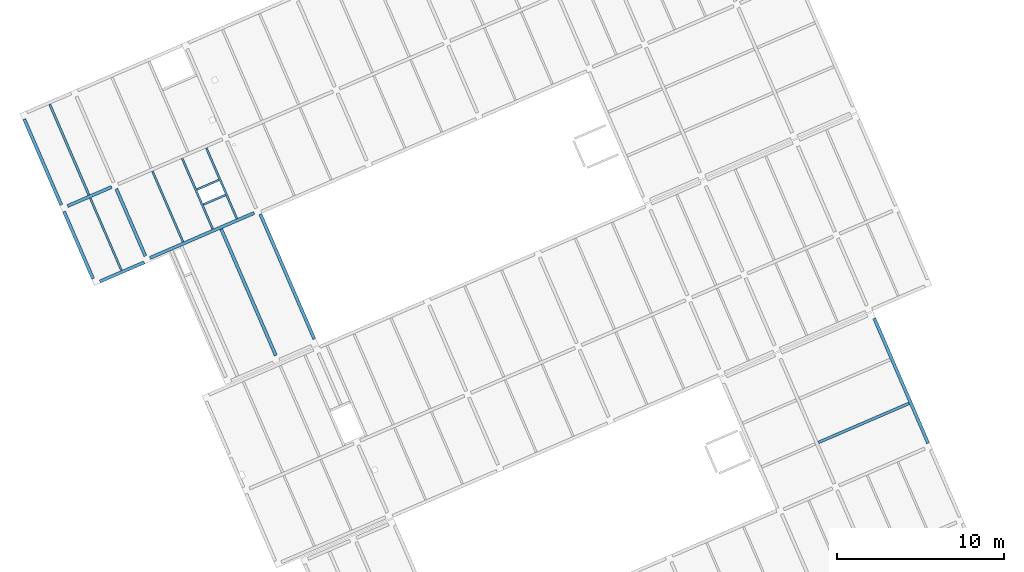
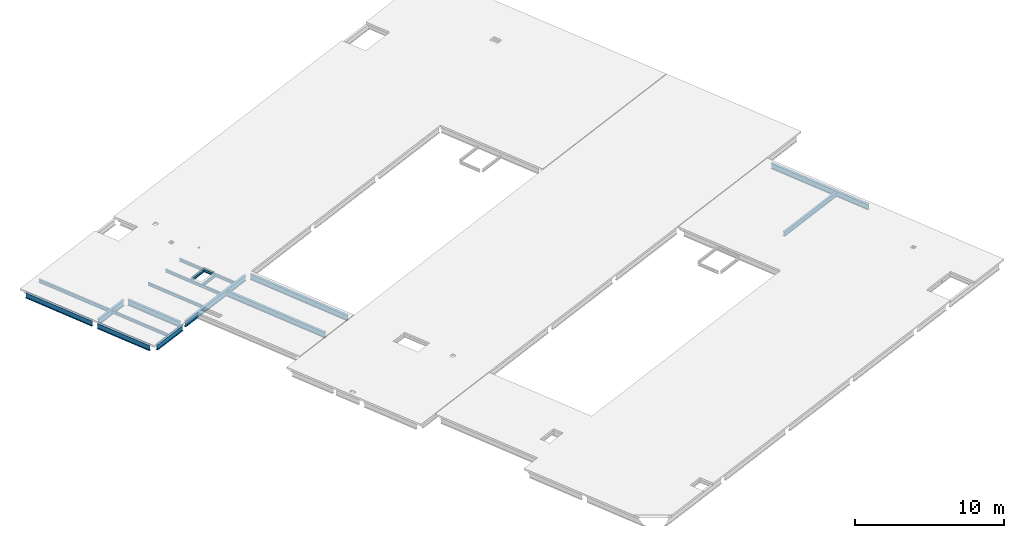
# One storey, part 8 of 15: 17 beams.
"""IFC4 building model written with IfcOpenShell, lengths in metres."""

from ifc_helpers import new_model, entity, si_unit, converted_unit, derived_unit, direction, frame, origin, place, context, subcontext, project, spatial, line, arc, indexed_curve, outline, extrude, source, transform, mapped, material, type_object, type_shapes, element, save


model = new_model("IFC4")

# Units and contexts
model_context = context("Model", 3, precision=1e-05, world=origin(), true_north=direction((6.12323399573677e-17, 1.0)))
body_context = subcontext(model_context, "Body", "Model", "MODEL_VIEW")
ifc_project = project(units=[si_unit("LENGTHUNIT", "METRE"), si_unit("AREAUNIT", "SQUARE_METRE"), si_unit("VOLUMEUNIT", "CUBIC_METRE"), converted_unit("PLANEANGLEUNIT", "DEGREE", entity("IfcPlaneAngleMeasure", 0.0174532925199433), si_unit("PLANEANGLEUNIT", "RADIAN"), dimensions=[0, 0, 0, 0, 0, 0, 0]), si_unit("MASSUNIT", "GRAM", prefix="KILO"), derived_unit("MOMENTOFINERTIAUNIT", [(si_unit("LENGTHUNIT", "METRE"), 4)]), derived_unit("LINEARFORCEUNIT", [(si_unit("MASSUNIT", "GRAM", prefix="KILO"), 1), (si_unit("TIMEUNIT", "SECOND"), -2)]), derived_unit("WARPINGCONSTANTUNIT", [(si_unit("LENGTHUNIT", "METRE"), 6)]), derived_unit("THERMALTRANSMITTANCEUNIT", [(si_unit("MASSUNIT", "GRAM", prefix="KILO"), 1), (si_unit("THERMODYNAMICTEMPERATUREUNIT", "KELVIN"), -1), (si_unit("TIMEUNIT", "SECOND"), -3)]), derived_unit("USERDEFINED", [(si_unit("MASSUNIT", "GRAM", prefix="KILO"), 1), (si_unit("TIMEUNIT", "SECOND"), -2), (si_unit("THERMODYNAMICTEMPERATUREUNIT", "KELVIN"), -1)]), derived_unit("THERMALRESISTANCEUNIT", [(si_unit("MASSUNIT", "GRAM", prefix="KILO"), -1), (si_unit("TIMEUNIT", "SECOND"), 3), (si_unit("THERMODYNAMICTEMPERATUREUNIT", "KELVIN"), 1)])], contexts=[model_context])

# Site, building, storey
site_placement = place(None, origin())
site = spatial("IfcSite", under=ifc_project, at=site_placement, Name="Default", CompositionType="ELEMENT")
building_placement = place(site_placement, frame((12.6613425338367, -82.5732315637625, 317.15), z_axis=(0.0, 0.0, 1.0), x_axis=(-0.396377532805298, 0.918087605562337, 0.0)))
building = spatial("IfcBuilding", under=site, at=building_placement, Name="CESFAM Coyhaique", CompositionType="ELEMENT")
storey_placement = place(building_placement, frame((0.0, 0.0, 8.45000000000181)))
storey = spatial("IfcBuildingStorey", under=building, at=storey_placement, Name="Nivel 3", CompositionType="ELEMENT", Elevation=8.45000000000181)

# Beams
ifc_material = material(Name="Steel, 45-345", Category="Metal")
beam_type_1 = type_object("IfcBeamType", Name="M_W Shapes:W450X190mm", PredefinedType="BEAM", material=ifc_material)
shared_shape_1 = source(origin(), body_context, "Body", "SweptSolid", [
    extrude(outline(indexed_curve([(-0.224999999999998, -0.0950000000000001), (-0.215349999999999, -0.0950000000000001), (-0.215349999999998, -0.0105700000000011), (-0.213109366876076, -0.00516063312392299), (-0.207699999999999, -0.0029200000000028), (0.207700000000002, -0.0029200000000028), (0.21310936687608, -0.00516063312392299), (0.215350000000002, -0.0105700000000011), (0.215350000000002, -0.0950000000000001), (0.225000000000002, -0.0950000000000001), (0.225000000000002, 0.0950000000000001), (0.215350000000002, 0.0950000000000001), (0.215350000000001, 0.0105699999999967), (0.21310936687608, 0.00516063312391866), (0.207700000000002, 0.00291999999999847), (-0.207699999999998, 0.00291999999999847), (-0.213109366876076, 0.00516063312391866), (-0.215349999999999, 0.0105700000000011), (-0.215349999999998, 0.0950000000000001), (-0.224999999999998, 0.0950000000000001)], segments=[line(1, 2, 3), arc(3, 4, 5), line(5, 6), arc(6, 7, 8), line(8, 9, 10, 11, 12, 13), arc(13, 14, 15), line(15, 16), arc(16, 17, 18), line(18, 19, 20, 1)], self_intersect=False)), frame((15.1815534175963, -21.3021495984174, 8.07500000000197), z_axis=(1.0, 0.0, 0.0), x_axis=(0.0, 0.0, -1.0)), (0.0, 0.0, 1.0), 8.1246),
])
type_shapes(beam_type_1, [shared_shape_1])
beam_1_placement = place(storey_placement, frame((0.0, 0.0, -8.45000000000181)))
element("IfcBeam", 1, at=beam_1_placement, inside=storey, type_object=beam_type_1, Name="M_W Shapes:W450X190mm", ObjectType="M_W Shapes:W450X190mm", PredefinedType="BEAM", context=body_context, shape_type="MappedRepresentation", body=[
    mapped(shared_shape_1, transform((0.0, 0.0, 0.0), scale=1.0)),
])
beam_type_2 = type_object("IfcBeamType", Name="M_W Shapes:W450X190mm", PredefinedType="BEAM", material=ifc_material)
shared_shape_2 = source(origin(), body_context, "Body", "SweptSolid", [
    extrude(outline(indexed_curve([(-0.224999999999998, -0.0950000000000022), (-0.215349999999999, -0.0950000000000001), (-0.215349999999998, -0.0105700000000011), (-0.213109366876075, -0.00516063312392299), (-0.207699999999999, -0.00292000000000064), (0.207700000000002, -0.00292000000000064), (0.213109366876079, -0.00516063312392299), (0.215350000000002, -0.0105700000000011), (0.215350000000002, -0.0950000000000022), (0.225000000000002, -0.0950000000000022), (0.225000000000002, 0.0949999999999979), (0.215350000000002, 0.0949999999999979), (0.215350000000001, 0.0105699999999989), (0.213109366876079, 0.00516063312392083), (0.207700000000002, 0.00291999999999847), (-0.207699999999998, 0.00291999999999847), (-0.213109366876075, 0.00516063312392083), (-0.215349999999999, 0.0105699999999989), (-0.215349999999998, 0.0949999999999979), (-0.224999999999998, 0.0949999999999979)], segments=[line(1, 2, 3), arc(3, 4, 5), line(5, 6), arc(6, 7, 8), line(8, 9, 10, 11, 12, 13), arc(13, 14, 15), line(15, 16), arc(16, 17, 18), line(18, 19, 20, 1)], self_intersect=False)), frame((35.4315534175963, 9.90285040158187, 8.07500000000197), z_axis=(1.0, 0.0, 0.0), x_axis=(0.0, 0.0, -1.0)), (0.0, 0.0, 1.0), 8.1246),
])
type_shapes(beam_type_2, [shared_shape_2])
beam_2_placement = place(storey_placement, frame((0.0, 0.0, -8.45000000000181)))
element("IfcBeam", 2, at=beam_2_placement, inside=storey, type_object=beam_type_2, Name="M_W Shapes:W450X190mm", ObjectType="M_W Shapes:W450X190mm", PredefinedType="BEAM", context=body_context, shape_type="MappedRepresentation", body=[
    mapped(shared_shape_2, transform((0.0, 0.0, 0.0), scale=1.0)),
])
beam_type_3 = type_object("IfcBeamType", Name="M_W Shapes:W450X190mm", PredefinedType="BEAM", material=ifc_material)
shared_shape_3 = source(origin(), body_context, "Body", "SweptSolid", [
    extrude(outline(indexed_curve([(-0.224999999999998, -0.0950000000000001), (-0.215349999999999, -0.0949999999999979), (-0.215349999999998, -0.0105699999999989), (-0.213109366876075, -0.00516063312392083), (-0.207699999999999, -0.00291999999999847), (0.207700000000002, -0.00291999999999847), (0.213109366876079, -0.00516063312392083), (0.215350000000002, -0.0105699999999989), (0.215350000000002, -0.0950000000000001), (0.225000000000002, -0.0950000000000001), (0.225000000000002, 0.0950000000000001), (0.215350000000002, 0.0950000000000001), (0.215350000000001, 0.0105700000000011), (0.213109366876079, 0.00516063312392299), (0.207700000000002, 0.00292000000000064), (-0.207699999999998, 0.00292000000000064), (-0.213109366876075, 0.00516063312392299), (-0.215349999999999, 0.0105700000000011), (-0.215349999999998, 0.0950000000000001), (-0.224999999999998, 0.0950000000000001)], segments=[line(1, 2, 3), arc(3, 4, 5), line(5, 6), arc(6, 7, 8), line(8, 9, 10, 11, 12, 13), arc(13, 14, 15), line(15, 16), arc(16, 17, 18), line(18, 19, 20, 1)], self_intersect=False)), frame((43.9815534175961, 17.2028504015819, 8.07500000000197), z_axis=(1.0, 0.0, 0.0), x_axis=(0.0, 0.0, -1.0)), (0.0, 0.0, 1.0), 4.3746),
])
type_shapes(beam_type_3, [shared_shape_3])
beam_3_placement = place(storey_placement, frame((0.0, 0.0, -8.45000000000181)))
element("IfcBeam", 3, at=beam_3_placement, inside=storey, type_object=beam_type_3, Name="M_W Shapes:W450X190mm", ObjectType="M_W Shapes:W450X190mm", PredefinedType="BEAM", context=body_context, shape_type="MappedRepresentation", body=[
    mapped(shared_shape_3, transform((0.0, 0.0, 0.0), scale=1.0)),
])
beam_type_4 = type_object("IfcBeamType", Name="M_W Shapes:W450X190mm", PredefinedType="BEAM", material=ifc_material)
shared_shape_4 = source(origin(), body_context, "Body", "SweptSolid", [
    extrude(outline(indexed_curve([(-0.0950000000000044, -0.225000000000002), (0.0949999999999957, -0.225000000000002), (0.0950000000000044, -0.215350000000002), (0.0105699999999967, -0.215350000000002), (0.00516063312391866, -0.213109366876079), (0.0029200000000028, -0.207700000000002), (0.00291999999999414, 0.207699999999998), (0.00516063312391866, 0.213109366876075), (0.0105699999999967, 0.215349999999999), (0.0949999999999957, 0.215349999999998), (0.0949999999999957, 0.224999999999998), (-0.0950000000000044, 0.224999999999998), (-0.0950000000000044, 0.215349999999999), (-0.0105700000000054, 0.215349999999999), (-0.00516063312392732, 0.213109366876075), (-0.0029200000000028, 0.207699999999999), (-0.0029200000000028, -0.207700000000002), (-0.00516063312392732, -0.213109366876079), (-0.0105699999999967, -0.215350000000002), (-0.0950000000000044, -0.215350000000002)], segments=[line(1, 2, 3, 4), arc(4, 5, 6), line(6, 7), arc(7, 8, 9), line(9, 10, 11, 12, 13, 14), arc(14, 15, 16), line(16, 17), arc(17, 18, 19), line(19, 20, 1)], self_intersect=False)), frame((43.7688534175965, 10.2155504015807, 8.07500000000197), z_axis=(0.0, 1.0, 0.0), x_axis=(-1.0, 0.0, 0.0)), (0.0, 0.0, 1.0), 6.7746),
])
type_shapes(beam_type_4, [shared_shape_4])
beam_4_placement = place(storey_placement, frame((0.0, 0.0, -8.45000000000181)))
element("IfcBeam", 4, at=beam_4_placement, inside=storey, type_object=beam_type_4, Name="M_W Shapes:W450X190mm", ObjectType="M_W Shapes:W450X190mm", PredefinedType="BEAM", context=body_context, shape_type="MappedRepresentation", body=[
    mapped(shared_shape_4, transform((0.0, 0.0, 0.0), scale=1.0)),
])
beam_type_5 = type_object("IfcBeamType", Name="M_W Shapes:W450X190mm", PredefinedType="BEAM", material=ifc_material)
shared_shape_5 = source(origin(), body_context, "Body", "SweptSolid", [
    extrude(outline(indexed_curve([(-0.0950000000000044, -0.225000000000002), (0.0949999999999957, -0.225000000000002), (0.0950000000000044, -0.215350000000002), (0.0105699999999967, -0.215350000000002), (0.00516063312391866, -0.213109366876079), (0.0029200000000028, -0.207700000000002), (0.00291999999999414, 0.207699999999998), (0.00516063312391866, 0.213109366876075), (0.0105699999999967, 0.215349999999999), (0.0949999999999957, 0.215349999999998), (0.0949999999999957, 0.224999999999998), (-0.0950000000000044, 0.224999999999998), (-0.0950000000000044, 0.215349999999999), (-0.0105700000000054, 0.215349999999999), (-0.00516063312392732, 0.213109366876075), (-0.0029200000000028, 0.207699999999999), (-0.0029200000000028, -0.207700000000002), (-0.00516063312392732, -0.213109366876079), (-0.0105699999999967, -0.215350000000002), (-0.0950000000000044, -0.215350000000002)], segments=[line(1, 2, 3, 4), arc(4, 5, 6), line(6, 7), arc(7, 8, 9), line(9, 10, 11, 12, 13, 14), arc(14, 15, 16), line(16, 17), arc(17, 18, 19), line(19, 20, 1)], self_intersect=False)), frame((43.6638534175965, 17.4156003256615, 8.07500000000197), z_axis=(0.0, 1.0, 0.0), x_axis=(-1.0, 0.0, 0.0)), (0.0, 0.0, 1.0), 2.8745),
])
type_shapes(beam_type_5, [shared_shape_5])
beam_5_placement = place(storey_placement, frame((0.0, 0.0, -8.45000000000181)))
element("IfcBeam", 5, at=beam_5_placement, inside=storey, type_object=beam_type_5, Name="M_W Shapes:W450X190mm", ObjectType="M_W Shapes:W450X190mm", PredefinedType="BEAM", context=body_context, shape_type="MappedRepresentation", body=[
    mapped(shared_shape_5, transform((0.0, 0.0, 0.0), scale=1.0)),
])
beam_type_6 = type_object("IfcBeamType", Name="M_W Shapes:W450X190mm", PredefinedType="BEAM", material=ifc_material)
shared_shape_6 = source(origin(), body_context, "Body", "SweptSolid", [
    extrude(outline(indexed_curve([(-0.0949999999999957, -0.225000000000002), (0.0950000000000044, -0.225000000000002), (0.0950000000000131, -0.215350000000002), (0.0105700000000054, -0.215350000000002), (0.00516063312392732, -0.213109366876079), (0.00292000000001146, -0.207700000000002), (0.0029200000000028, 0.207699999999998), (0.00516063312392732, 0.213109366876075), (0.0105700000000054, 0.215349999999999), (0.0950000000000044, 0.215349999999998), (0.0950000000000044, 0.224999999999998), (-0.0949999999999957, 0.224999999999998), (-0.0949999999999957, 0.215349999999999), (-0.0105699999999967, 0.215349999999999), (-0.00516063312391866, 0.213109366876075), (-0.00291999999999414, 0.207699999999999), (-0.00291999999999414, -0.207700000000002), (-0.00516063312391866, -0.213109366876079), (-0.0105699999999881, -0.215350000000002), (-0.0949999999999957, -0.215350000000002)], segments=[line(1, 2, 3, 4), arc(4, 5, 6), line(6, 7), arc(7, 8, 9), line(9, 10, 11, 12, 13, 14), arc(14, 15, 16), line(16, 17), arc(17, 18, 19), line(19, 20, 1)], self_intersect=False)), frame((48.5688534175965, 17.4156003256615, 8.07500000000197), z_axis=(0.0, 1.0, 0.0), x_axis=(-1.0, 0.0, 0.0)), (0.0, 0.0, 1.0), 2.8745),
])
type_shapes(beam_type_6, [shared_shape_6])
beam_6_placement = place(storey_placement, frame((0.0, 0.0, -8.45000000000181)))
element("IfcBeam", 6, at=beam_6_placement, inside=storey, type_object=beam_type_6, Name="M_W Shapes:W450X190mm", ObjectType="M_W Shapes:W450X190mm", PredefinedType="BEAM", context=body_context, shape_type="MappedRepresentation", body=[
    mapped(shared_shape_6, transform((0.0, 0.0, 0.0), scale=1.0)),
])
beam_type_7 = type_object("IfcBeamType", Name="M_W Shapes:W450X190mm", PredefinedType="BEAM", material=ifc_material)
shared_shape_7 = source(origin(), body_context, "Body", "SweptSolid", [
    extrude(outline(indexed_curve([(-0.224999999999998, -0.0950000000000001), (-0.215349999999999, -0.0950000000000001), (-0.215349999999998, -0.0105700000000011), (-0.213109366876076, -0.00516063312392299), (-0.207699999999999, -0.0029200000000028), (0.207700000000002, -0.0029200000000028), (0.21310936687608, -0.00516063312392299), (0.215350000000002, -0.0105700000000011), (0.215350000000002, -0.0950000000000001), (0.225000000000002, -0.0950000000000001), (0.225000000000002, 0.0950000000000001), (0.215350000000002, 0.0950000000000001), (0.215350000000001, 0.0105699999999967), (0.21310936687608, 0.00516063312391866), (0.207700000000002, 0.00291999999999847), (-0.207699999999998, 0.00291999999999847), (-0.213109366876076, 0.00516063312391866), (-0.215349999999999, 0.0105700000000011), (-0.215349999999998, 0.0950000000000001), (-0.224999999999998, 0.0950000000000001)], segments=[line(1, 2, 3), arc(3, 4, 5), line(5, 6), arc(6, 7, 8), line(8, 9, 10, 11, 12, 13), arc(13, 14, 15), line(15, 16), arc(16, 17, 18), line(18, 19, 20, 1)], self_intersect=False)), frame((43.9815534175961, 20.6078502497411, 8.07500000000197), z_axis=(1.0, 0.0, 0.0), x_axis=(0.0, 0.0, -1.0)), (0.0, 0.0, 1.0), 4.3746),
])
type_shapes(beam_type_7, [shared_shape_7])
beam_7_placement = place(storey_placement, frame((0.0, 0.0, -8.45000000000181)))
element("IfcBeam", 7, at=beam_7_placement, inside=storey, type_object=beam_type_7, Name="M_W Shapes:W450X190mm", ObjectType="M_W Shapes:W450X190mm", PredefinedType="BEAM", context=body_context, shape_type="MappedRepresentation", body=[
    mapped(shared_shape_7, transform((0.0, 0.0, 0.0), scale=1.0)),
])
beam_type_8 = type_object("IfcBeamType", Name="M_W Shapes:W450X190mm", PredefinedType="BEAM", material=ifc_material)
shared_shape_8 = source(origin(), body_context, "Body", "SweptSolid", [
    extrude(outline(indexed_curve([(-0.224999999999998, -0.0950000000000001), (-0.215349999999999, -0.0950000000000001), (-0.215349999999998, -0.0105700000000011), (-0.213109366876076, -0.00516063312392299), (-0.207699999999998, -0.0029200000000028), (0.207700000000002, -0.0029200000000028), (0.21310936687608, -0.00516063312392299), (0.215350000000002, -0.0105700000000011), (0.215350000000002, -0.0950000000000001), (0.225000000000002, -0.0950000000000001), (0.225000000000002, 0.0950000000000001), (0.215350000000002, 0.0950000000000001), (0.215350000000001, 0.0105699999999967), (0.21310936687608, 0.00516063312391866), (0.207700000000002, 0.00291999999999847), (-0.207699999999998, 0.00291999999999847), (-0.213109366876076, 0.00516063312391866), (-0.215349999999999, 0.0105699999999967), (-0.215349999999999, 0.0950000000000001), (-0.224999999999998, 0.0950000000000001)], segments=[line(1, 2, 3), arc(3, 4, 5), line(5, 6), arc(6, 7, 8), line(8, 9, 10, 11, 12, 13), arc(13, 14, 15), line(15, 16), arc(16, 17, 18), line(18, 19, 20, 1)], self_intersect=False)), frame((48.7815534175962, 20.6028504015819, 8.07500000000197), z_axis=(1.0, 0.0, 0.0), x_axis=(0.0, 0.0, -1.0)), (0.0, 0.0, 1.0), 5.5746),
])
type_shapes(beam_type_8, [shared_shape_8])
beam_8_placement = place(storey_placement, frame((0.0, 0.0, -8.45000000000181)))
element("IfcBeam", 8, at=beam_8_placement, inside=storey, type_object=beam_type_8, Name="M_W Shapes:W450X190mm", ObjectType="M_W Shapes:W450X190mm", PredefinedType="BEAM", context=body_context, shape_type="MappedRepresentation", body=[
    mapped(shared_shape_8, transform((0.0, 0.0, 0.0), scale=1.0)),
])
beam_type_9 = type_object("IfcBeamType", Name="M_W Shapes:W360X170mm", PredefinedType="BEAM", material=ifc_material)
shared_shape_9 = source(origin(), body_context, "Body", "SweptSolid", [
    extrude(outline(indexed_curve([(-0.084999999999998, -0.180000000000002), (0.0850000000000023, -0.180000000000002), (0.0850000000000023, -0.170350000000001), (0.0105700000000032, -0.17035), (0.00516063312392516, -0.168109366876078), (0.0029200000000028, -0.162700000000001), (0.0029200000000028, 0.162699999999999), (0.00516063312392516, 0.168109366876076), (0.0105700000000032, 0.170349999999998), (0.0850000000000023, 0.170349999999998), (0.0850000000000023, 0.179999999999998), (-0.084999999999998, 0.179999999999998), (-0.084999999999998, 0.170349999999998), (-0.0105699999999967, 0.170349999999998), (-0.00516063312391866, 0.168109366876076), (-0.0029199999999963, 0.162699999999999), (-0.0029199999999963, -0.162700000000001), (-0.00516063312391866, -0.168109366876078), (-0.0105699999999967, -0.170350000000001), (-0.084999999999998, -0.170350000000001)], segments=[line(1, 2, 3, 4), arc(4, 5, 6), line(6, 7), arc(7, 8, 9), line(9, 10, 11, 12, 13, 14), arc(14, 15, 16), line(16, 17), arc(17, 18, 19), line(19, 20, 1)], self_intersect=False)), frame((17.8188534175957, -21.1944495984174, 8.12000000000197), z_axis=(0.0, 1.0, 0.0), x_axis=(-1.0, 0.0, 0.0)), (0.0, 0.0, 1.0), 5.8896),
])
type_shapes(beam_type_9, [shared_shape_9])
beam_9_placement = place(storey_placement, frame((0.0, 0.0, -8.45000000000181)))
element("IfcBeam", 9, at=beam_9_placement, inside=storey, type_object=beam_type_9, Name="M_W Shapes:W360X170mm", ObjectType="M_W Shapes:W360X170mm", PredefinedType="BEAM", context=body_context, shape_type="MappedRepresentation", body=[
    mapped(shared_shape_9, transform((0.0, 0.0, 0.0), scale=1.0)),
])
beam_type_10 = type_object("IfcBeamType", Name="M_W Shapes:W240X120mm", PredefinedType="BEAM", material=ifc_material)
shared_shape_10 = source(origin(), body_context, "Body", "SweptSolid", [
    extrude(outline(indexed_curve([(-0.119999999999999, -0.0600000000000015), (-0.11035, -0.0600000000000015), (-0.110349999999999, -0.0105700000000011), (-0.108109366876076, -0.00516063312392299), (-0.102699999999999, -0.00292000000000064), (0.1027, -0.00292000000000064), (0.108109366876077, -0.00516063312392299), (0.11035, -0.0105700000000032), (0.110350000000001, -0.0600000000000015), (0.120000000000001, -0.0600000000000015), (0.120000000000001, 0.0599999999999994), (0.11035, 0.0599999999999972), (0.11035, 0.0105699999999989), (0.108109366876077, 0.00516063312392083), (0.102699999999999, 0.00291999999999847), (-0.102699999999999, 0.00291999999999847), (-0.108109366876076, 0.00516063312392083), (-0.11035, 0.0105699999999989), (-0.110349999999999, 0.0599999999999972), (-0.119999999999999, 0.0599999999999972)], segments=[line(1, 2, 3), arc(3, 4, 5), line(5, 6), arc(6, 7, 8), line(8, 9, 10, 11, 12, 13), arc(13, 14, 15), line(15, 16), arc(16, 17, 18), line(18, 19, 20, 1)], self_intersect=False)), frame((43.8765534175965, 14.8025757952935, 8.18000000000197), z_axis=(1.0, 0.0, 0.0), x_axis=(0.0, 0.0, -1.0)), (0.0, 0.0, 1.0), 4.5846),
])
type_shapes(beam_type_10, [shared_shape_10])
beam_10_placement = place(storey_placement, frame((0.0, 0.0, -8.45000000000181)))
element("IfcBeam", 10, at=beam_10_placement, inside=storey, type_object=beam_type_10, Name="M_W Shapes:W240X120mm", ObjectType="M_W Shapes:W240X120mm", PredefinedType="BEAM", context=body_context, shape_type="MappedRepresentation", body=[
    mapped(shared_shape_10, transform((0.0, 0.0, 0.0), scale=1.0)),
])
beam_type_11 = type_object("IfcBeamType", Name="M_W Shapes:W240X120mm", PredefinedType="BEAM", material=ifc_material)
shared_shape_11 = source(origin(), body_context, "Body", "SweptSolid", [
    extrude(outline(indexed_curve([(-0.119999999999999, -0.0599999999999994), (-0.11035, -0.0599999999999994), (-0.110349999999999, -0.0105699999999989), (-0.108109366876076, -0.00516063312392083), (-0.102699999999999, -0.00291999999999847), (0.1027, -0.00291999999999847), (0.108109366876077, -0.00516063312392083), (0.11035, -0.0105700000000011), (0.110350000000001, -0.0599999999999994), (0.120000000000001, -0.0599999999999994), (0.120000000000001, 0.0600000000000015), (0.11035, 0.0599999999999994), (0.11035, 0.0105700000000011), (0.108109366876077, 0.00516063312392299), (0.102699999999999, 0.00292000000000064), (-0.102699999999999, 0.00292000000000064), (-0.108109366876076, 0.00516063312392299), (-0.11035, 0.0105700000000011), (-0.110349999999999, 0.0599999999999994), (-0.119999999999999, 0.0599999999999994)], segments=[line(1, 2, 3), arc(3, 4, 5), line(5, 6), arc(6, 7, 8), line(8, 9, 10, 11, 12, 13), arc(13, 14, 15), line(15, 16), arc(16, 17, 18), line(18, 19, 20, 1)], self_intersect=False)), frame((43.8765534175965, 12.8678512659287, 8.18000000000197), z_axis=(1.0, 0.0, 0.0), x_axis=(0.0, 0.0, -1.0)), (0.0, 0.0, 1.0), 4.5846),
])
type_shapes(beam_type_11, [shared_shape_11])
beam_11_placement = place(storey_placement, frame((0.0, 0.0, -8.45000000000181)))
element("IfcBeam", 11, at=beam_11_placement, inside=storey, type_object=beam_type_11, Name="M_W Shapes:W240X120mm", ObjectType="M_W Shapes:W240X120mm", PredefinedType="BEAM", context=body_context, shape_type="MappedRepresentation", body=[
    mapped(shared_shape_11, transform((0.0, 0.0, 0.0), scale=1.0)),
])
beam_type_12 = type_object("IfcBeamType", Name="M_W Shapes:W240X120mm", PredefinedType="BEAM", material=ifc_material)
shared_shape_12 = source(origin(), body_context, "Body", "SweptSolid", [
    extrude(outline(indexed_curve([(-0.119999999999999, -0.0599999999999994), (-0.11035, -0.0599999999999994), (-0.110349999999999, -0.0105699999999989), (-0.108109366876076, -0.00516063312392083), (-0.102699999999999, -0.00291999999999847), (0.1027, -0.00291999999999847), (0.108109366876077, -0.00516063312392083), (0.11035, -0.0105700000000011), (0.110350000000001, -0.0599999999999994), (0.120000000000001, -0.0599999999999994), (0.120000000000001, 0.0600000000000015), (0.11035, 0.0599999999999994), (0.11035, 0.0105700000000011), (0.108109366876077, 0.00516063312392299), (0.102699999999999, 0.00292000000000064), (-0.102699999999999, 0.00292000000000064), (-0.108109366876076, 0.00516063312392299), (-0.11035, 0.0105700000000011), (-0.110349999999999, 0.0599999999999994), (-0.119999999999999, 0.0599999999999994)], segments=[line(1, 2, 3), arc(3, 4, 5), line(5, 6), arc(6, 7, 8), line(8, 9, 10, 11, 12, 13), arc(13, 14, 15), line(15, 16), arc(16, 17, 18), line(18, 19, 20, 1)], self_intersect=False)), frame((43.8765534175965, 11.297851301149, 8.18000000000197), z_axis=(1.0, 0.0, 0.0), x_axis=(0.0, 0.0, -1.0)), (0.0, 0.0, 1.0), 4.5846),
])
type_shapes(beam_type_12, [shared_shape_12])
beam_12_placement = place(storey_placement, frame((0.0, 0.0, -8.45000000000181)))
element("IfcBeam", 12, at=beam_12_placement, inside=storey, type_object=beam_type_12, Name="M_W Shapes:W240X120mm", ObjectType="M_W Shapes:W240X120mm", PredefinedType="BEAM", context=body_context, shape_type="MappedRepresentation", body=[
    mapped(shared_shape_12, transform((0.0, 0.0, 0.0), scale=1.0)),
])
beam_type_13 = type_object("IfcBeamType", Name="M_W Shapes:W240X120mm", PredefinedType="BEAM", material=ifc_material)
shared_shape_13 = source(origin(), body_context, "Body", "SweptSolid", [
    extrude(outline(indexed_curve([(-0.0600000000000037, -0.120000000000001), (0.059999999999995, -0.120000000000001), (0.059999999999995, -0.11035), (0.0105699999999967, -0.110350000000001), (0.00516063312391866, -0.108109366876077), (0.0029200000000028, -0.1027), (0.00291999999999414, 0.102699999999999), (0.00516063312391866, 0.108109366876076), (0.0105699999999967, 0.11035), (0.059999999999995, 0.11035), (0.059999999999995, 0.119999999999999), (-0.0600000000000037, 0.119999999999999), (-0.0600000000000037, 0.11035), (-0.0105700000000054, 0.11035), (-0.00516063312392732, 0.108109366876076), (-0.0029200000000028, 0.102699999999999), (-0.0029200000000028, -0.1027), (-0.00516063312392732, -0.108109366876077), (-0.0105700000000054, -0.11035), (-0.0600000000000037, -0.11035)], segments=[line(1, 2, 3, 4), arc(4, 5, 6), line(6, 7), arc(7, 8, 9), line(9, 10, 11, 12, 13, 14), arc(14, 15, 16), line(16, 17), arc(17, 18, 19), line(19, 20, 1)], self_intersect=False)), frame((45.43959625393, 11.3706012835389, 8.18000000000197), z_axis=(0.0, 1.0, 0.0), x_axis=(-1.0, 0.0, 0.0)), (0.0, 0.0, 1.0), 1.4245),
])
type_shapes(beam_type_13, [shared_shape_13])
beam_13_placement = place(storey_placement, frame((0.0, 0.0, -8.45000000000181)))
element("IfcBeam", 13, at=beam_13_placement, inside=storey, type_object=beam_type_13, Name="M_W Shapes:W240X120mm", ObjectType="M_W Shapes:W240X120mm", PredefinedType="BEAM", context=body_context, shape_type="MappedRepresentation", body=[
    mapped(shared_shape_13, transform((0.0, 0.0, 0.0), scale=1.0)),
])
beam_type_14 = type_object("IfcBeamType", Name="M_W Shapes:W240X120mm", PredefinedType="BEAM", material=ifc_material)
shared_shape_14 = source(origin(), body_context, "Body", "SweptSolid", [
    extrude(outline(indexed_curve([(-0.059999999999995, -0.120000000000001), (0.0600000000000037, -0.120000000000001), (0.0600000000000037, -0.11035), (0.0105700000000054, -0.110350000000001), (0.00516063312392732, -0.108109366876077), (0.00292000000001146, -0.1027), (0.0029200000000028, 0.102699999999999), (0.00516063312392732, 0.108109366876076), (0.0105700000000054, 0.11035), (0.0600000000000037, 0.11035), (0.0600000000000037, 0.119999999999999), (-0.059999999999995, 0.119999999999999), (-0.059999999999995, 0.11035), (-0.0105699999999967, 0.11035), (-0.00516063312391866, 0.108109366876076), (-0.00291999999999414, 0.102699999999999), (-0.00291999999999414, -0.1027), (-0.00516063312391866, -0.108109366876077), (-0.0105699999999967, -0.11035), (-0.059999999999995, -0.11035)], segments=[line(1, 2, 3, 4), arc(4, 5, 6), line(6, 7), arc(7, 8, 9), line(9, 10, 11, 12, 13, 14), arc(14, 15, 16), line(16, 17), arc(17, 18, 19), line(19, 20, 1)], self_intersect=False)), frame((46.4095962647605, 11.3706012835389, 8.18000000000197), z_axis=(0.0, 1.0, 0.0), x_axis=(-1.0, 0.0, 0.0)), (0.0, 0.0, 1.0), 1.4245),
])
type_shapes(beam_type_14, [shared_shape_14])
beam_14_placement = place(storey_placement, frame((0.0, 0.0, -8.45000000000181)))
element("IfcBeam", 14, at=beam_14_placement, inside=storey, type_object=beam_type_14, Name="M_W Shapes:W240X120mm", ObjectType="M_W Shapes:W240X120mm", PredefinedType="BEAM", context=body_context, shape_type="MappedRepresentation", body=[
    mapped(shared_shape_14, transform((0.0, 0.0, 0.0), scale=1.0)),
])
beam_type_15 = type_object("IfcBeamType", Name="M_W Shapes:W240X120mm", PredefinedType="BEAM", material=ifc_material)
shared_shape_15 = source(origin(), body_context, "Body", "SweptSolid", [
    extrude(outline(indexed_curve([(-0.119999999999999, -0.060000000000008), (-0.11035, -0.060000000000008), (-0.110349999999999, -0.0105700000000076), (-0.108109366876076, -0.00516063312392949), (-0.102699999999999, -0.00292000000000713), (0.1027, -0.00292000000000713), (0.108109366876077, -0.00516063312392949), (0.11035, -0.0105700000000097), (0.110350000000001, -0.060000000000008), (0.120000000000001, -0.060000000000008), (0.120000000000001, 0.0599999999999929), (0.11035, 0.0599999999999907), (0.11035, 0.0105699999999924), (0.108109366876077, 0.00516063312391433), (0.102699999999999, 0.00291999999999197), (-0.102699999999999, 0.00291999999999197), (-0.108109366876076, 0.00516063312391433), (-0.11035, 0.0105699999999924), (-0.110349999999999, 0.0599999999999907), (-0.119999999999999, 0.0599999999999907)], segments=[line(1, 2, 3), arc(3, 4, 5), line(5, 6), arc(6, 7, 8), line(8, 9, 10, 11, 12, 13), arc(13, 14, 15), line(15, 16), arc(16, 17, 18), line(18, 19, 20, 1)], self_intersect=False)), frame((43.7715534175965, 18.8527297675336, 8.18000000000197), z_axis=(1.0, 0.0, 0.0), x_axis=(0.0, 0.0, -1.0)), (0.0, 0.0, 1.0), 4.6896),
])
type_shapes(beam_type_15, [shared_shape_15])
beam_15_placement = place(storey_placement, frame((0.0, 0.0, -8.45000000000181)))
element("IfcBeam", 15, at=beam_15_placement, inside=storey, type_object=beam_type_15, Name="M_W Shapes:W240X120mm", ObjectType="M_W Shapes:W240X120mm", PredefinedType="BEAM", context=body_context, shape_type="MappedRepresentation", body=[
    mapped(shared_shape_15, transform((0.0, 0.0, 0.0), scale=1.0)),
])
beam_type_16 = type_object("IfcBeamType", Name="M_W Shapes:W270X140mm", PredefinedType="BEAM", material=ifc_material)
shared_shape_16 = source(origin(), body_context, "Body", "SweptSolid", [
    extrude(outline(indexed_curve([(-0.135, -0.0700000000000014), (-0.125350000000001, -0.0700000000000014), (-0.12535, -0.0105700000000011), (-0.123109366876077, -0.00516063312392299), (-0.1177, -0.00292000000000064), (0.117699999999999, -0.00292000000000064), (0.123109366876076, -0.00516063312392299), (0.12535, -0.0105700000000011), (0.12535, -0.0700000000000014), (0.135, -0.0700000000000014), (0.135, 0.0699999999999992), (0.12535, 0.0699999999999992), (0.125349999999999, 0.0105699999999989), (0.123109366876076, 0.00516063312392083), (0.117699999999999, 0.00291999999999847), (-0.1177, 0.00291999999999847), (-0.123109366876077, 0.00516063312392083), (-0.125350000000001, 0.0105699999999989), (-0.125350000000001, 0.0699999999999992), (-0.135, 0.0699999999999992)], segments=[line(1, 2, 3), arc(3, 4, 5), line(5, 6), arc(6, 7, 8), line(8, 9, 10, 11, 12, 13), arc(13, 14, 15), line(15, 16), arc(16, 17, 18), line(18, 19, 20, 1)], self_intersect=False)), frame((48.6765534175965, 18.8527297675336, 8.16500000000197), z_axis=(1.0, 0.0, 0.0), x_axis=(0.0, 0.0, -1.0)), (0.0, 0.0, 1.0), 5.88460000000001),
])
type_shapes(beam_type_16, [shared_shape_16])
beam_16_placement = place(storey_placement, frame((0.0, 0.0, -8.45000000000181)))
element("IfcBeam", 16, at=beam_16_placement, inside=storey, type_object=beam_type_16, Name="M_W Shapes:W270X140mm", ObjectType="M_W Shapes:W270X140mm", PredefinedType="BEAM", context=body_context, shape_type="MappedRepresentation", body=[
    mapped(shared_shape_16, transform((0.0, 0.0, 0.0), scale=1.0)),
])
beam_type_17 = type_object("IfcBeamType", Name="M_W Shapes:W450X190mm", PredefinedType="BEAM", material=ifc_material)
shared_shape_17 = source(origin(), body_context, "Body", "SweptSolid", [
    extrude(outline(indexed_curve([(-0.224999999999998, -0.0950000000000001), (-0.215349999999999, -0.0950000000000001), (-0.215349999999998, -0.0105699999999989), (-0.213109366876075, -0.00516063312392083), (-0.207699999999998, -0.00291999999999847), (0.207700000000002, -0.00291999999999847), (0.213109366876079, -0.00516063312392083), (0.215350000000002, -0.0105699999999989), (0.215350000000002, -0.0950000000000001), (0.225000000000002, -0.0950000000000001), (0.225000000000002, 0.0950000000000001), (0.215350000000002, 0.0950000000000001), (0.215350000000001, 0.0105700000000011), (0.213109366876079, 0.00516063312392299), (0.207700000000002, 0.00292000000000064), (-0.207699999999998, 0.00292000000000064), (-0.213109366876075, 0.00516063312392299), (-0.215349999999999, 0.0105700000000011), (-0.215349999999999, 0.0950000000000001), (-0.224999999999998, 0.0950000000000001)], segments=[line(1, 2, 3), arc(3, 4, 5), line(5, 6), arc(6, 7, 8), line(8, 9, 10, 11, 12, 13), arc(13, 14, 15), line(15, 16), arc(16, 17, 18), line(18, 19, 20, 1)], self_intersect=False)), frame((35.4316534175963, 12.4028504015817, 8.07500000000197), z_axis=(1.0, 0.0, 0.0), x_axis=(0.0, 0.0, -1.0)), (0.0, 0.0, 1.0), 8.2295),
])
type_shapes(beam_type_17, [shared_shape_17])
beam_17_placement = place(storey_placement, frame((0.0, 0.0, -8.45000000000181)))
element("IfcBeam", 17, at=beam_17_placement, inside=storey, type_object=beam_type_17, Name="M_W Shapes:W450X190mm", ObjectType="M_W Shapes:W450X190mm", PredefinedType="BEAM", context=body_context, shape_type="MappedRepresentation", body=[
    mapped(shared_shape_17, transform((0.0, 0.0, 0.0), scale=1.0)),
])

save(model, "model.ifc")
